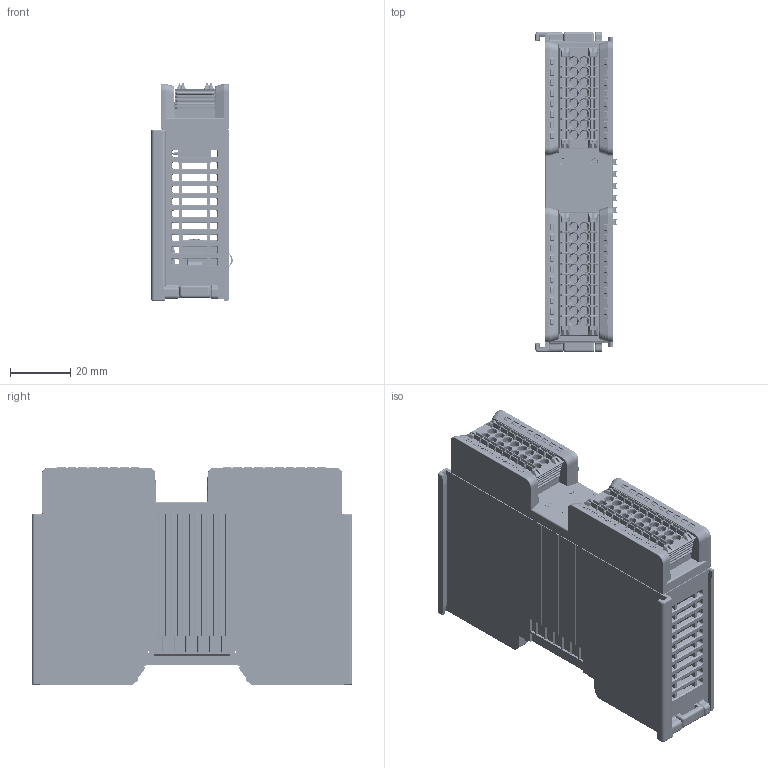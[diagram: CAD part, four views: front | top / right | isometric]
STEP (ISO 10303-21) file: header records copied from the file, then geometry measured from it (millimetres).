
FILE_DESCRIPTION((''),'2;1');
FILE_NAME('ASM0001_ASM','2024-05-22T14:40:17',('董'),(''),'CREO PARAMETRIC BY PTC INC, 2020033','CREO PARAMETRIC BY PTC INC, 2020033','');
FILE_SCHEMA(('CONFIG_CONTROL_DESIGN'));
Products named in the file (4): PRO_XB6S_IO_SW0001_SW0001; 15EDGKNHGB-3_5-16P-1Y-00A_Z_H_-; 15EDGKNHGB-3_5-20P-1Y-00A_Z_H_-; ASM0001_ASM
Assembly tree (3 placements, depth 2):
  ASM0001_ASM
    PRO_XB6S_IO_SW0001_SW0001
    15EDGKNHGB-3_5-16P-1Y-00A_Z_H_-
    15EDGKNHGB-3_5-20P-1Y-00A_Z_H_-
Bounding box: 27.05 x 106.4 x 72.49 mm (x, y, z)
Surface area: 73434.4 mm2
Topology: 72 solids, 121 shells, 11752 faces, 34538 edges, 22577 vertices
Faces by surface type: plane 6209, cylinder 3355, bspline 1176, torus 357, cone 351, sphere 180, extrusion 124
Entity records: 474976 total; most frequent: CARTESIAN_POINT 176896, ORIENTED_EDGE 64423, DIRECTION 55187, EDGE_CURVE 34270, VECTOR 22867, LINE 22743, VERTEX_POINT 22577, AXIS2_PLACEMENT_3D 16160
